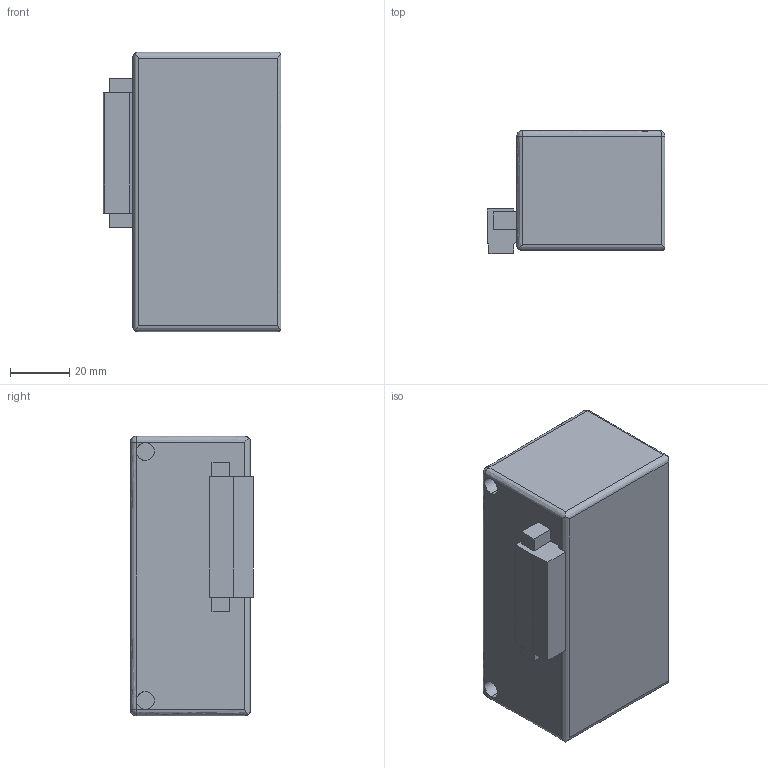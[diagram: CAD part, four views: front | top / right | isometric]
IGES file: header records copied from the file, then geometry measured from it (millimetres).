
Start section: ------------------------------------------------------------------------
Global section: file name: D:\ICADMX\tmp\trans3d_spg\CVICAD02.16560.YS6Bx_8987.igs; native system: spGate; preprocessor: ver12.6.6; author: Unknown; organization: Unknown; date: 200901.142631; units: millimetre
Bounding box: 60 x 41.5 x 94.4 mm (x, y, z)
Volume: 194854.3 mm3; surface area: 23623.6 mm2
Topology: 1 solids, 1 shells, 44 faces, 113 edges, 68 vertices
Faces by surface type: bspline 44
